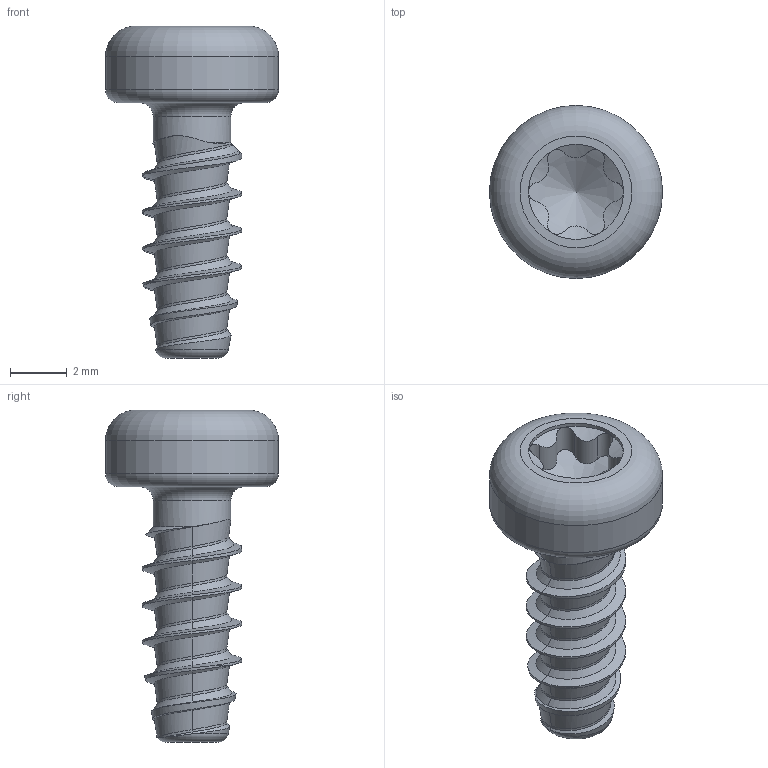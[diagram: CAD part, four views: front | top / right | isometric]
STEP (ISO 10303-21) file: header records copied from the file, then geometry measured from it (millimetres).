
FILE_DESCRIPTION(/* description */ (''),/* implementation_level */ '2;1');
FILE_NAME(/* name */ 'KN6039-STSplus-35x9-T15.step',/* time_stamp */ '2017-10-11T15:54:53+02:00',/* author */ (''),/* organization */ (''),/* preprocessor_version */ 'ST-DEVELOPER v16',/* originating_system */ 'SIEMENS PLM Software NX 10.0',/* authorisation */ '');
FILE_SCHEMA (('AUTOMOTIVE_DESIGN { 1 0 10303 214 3 1 1 1 }'));
Length unit declared in the file: millimetre
Products named in the file (1): KN6039-STSplus-35x9-T15
Bounding box: 6.1 x 6.1 x 11.7 mm (x, y, z)
Volume: 115.9 mm3; surface area: 211.4 mm2
Topology: 1 solids, 1 shells, 66 faces, 156 edges, 93 vertices
Faces by surface type: bspline 34, cylinder 16, cone 9, torus 4, plane 3
Full cylindrical faces by diameter (mm): 2.73 x1, 3.35 x1, 6.1 x1
Entity records: 4022 total; most frequent: CARTESIAN_POINT 2809, ORIENTED_EDGE 288, EDGE_CURVE 144, DIRECTION 143, VERTEX_POINT 90, B_SPLINE_CURVE_WITH_KNOTS 85, EDGE_LOOP 75, ADVANCED_FACE 66
